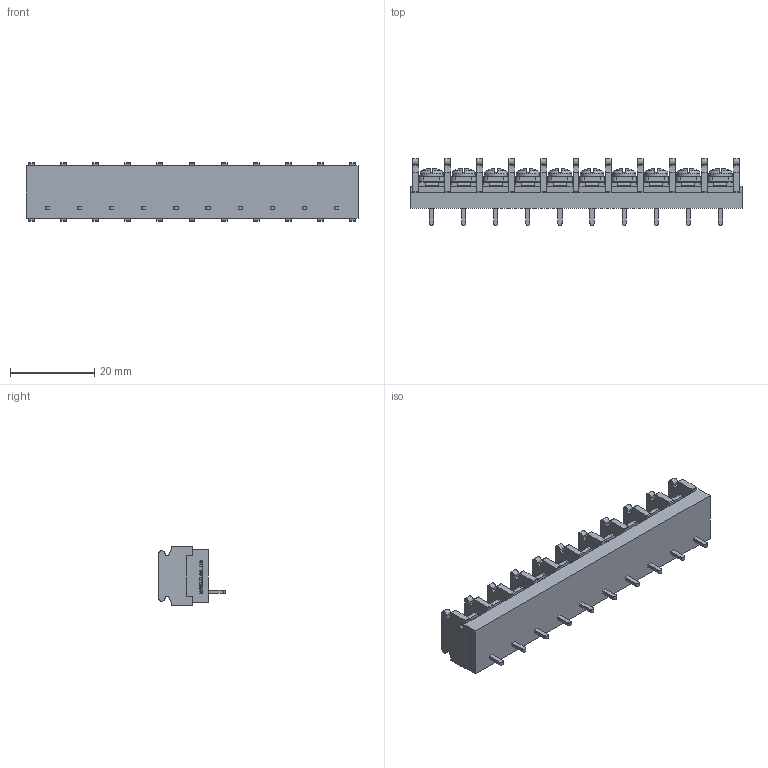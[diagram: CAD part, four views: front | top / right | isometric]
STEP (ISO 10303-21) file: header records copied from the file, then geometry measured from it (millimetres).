
FILE_DESCRIPTION(/* description */ ('Alibre Inc.'),/* implementation_level */ '2;1');
FILE_NAME(/* name */ 'export0',/* time_stamp */ '2015-10-23T19:31:58+09:00',/* author */ (''),/* organization */ (''),/* preprocessor_version */ 'ST-DEVELOPER v14',/* originating_system */ 'Alibre',/* authorisation */ '');
FILE_SCHEMA (('CONFIG_CONTROL_DESIGN'));
Length unit declared in the file: centimetre
Products named in the file (1): ID_1
Bounding box: 78.82 x 15.8 x 14 mm (x, y, z)
Volume: 7447.6 mm3; surface area: 7072 mm2
Topology: 1 solids, 1 shells, 1542 faces, 4246 edges, 2786 vertices
Faces by surface type: plane 1192, cylinder 166, bspline 104, cone 40, torus 20, sphere 20
Full cylindrical faces by diameter (mm): 3 x10, 5.5 x10
Entity records: 46603 total; most frequent: CARTESIAN_POINT 10113, ORIENTED_EDGE 8332, DIRECTION 5888, EDGE_CURVE 4166, VECTOR 3016, LINE 3016, VERTEX_POINT 2746, AXIS2_PLACEMENT_3D 1983
